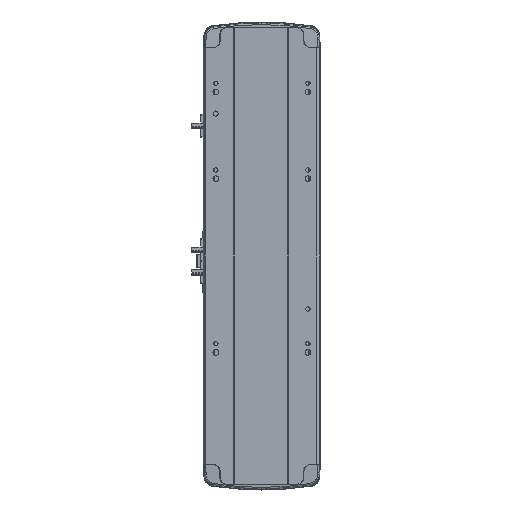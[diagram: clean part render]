
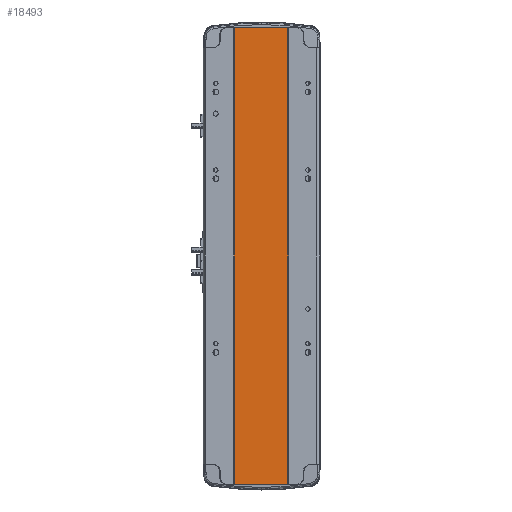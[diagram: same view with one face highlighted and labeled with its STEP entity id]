
A CAD part, front view. The second image highlights one B-rep face of the part: STEP entity #18493.
In plain terms, the highlighted planar face has unit normal (0, -1, 0).
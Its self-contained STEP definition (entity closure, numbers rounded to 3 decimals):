
#456 = CARTESIAN_POINT ( 'NONE',  ( -32., 1., 526. ) ) ;
#971 = AXIS2_PLACEMENT_3D ( 'NONE', #14741, #39349, #42923 ) ;
#1300 = DIRECTION ( 'NONE',  ( 0., 0., -1. ) ) ;
#2369 = LINE ( 'NONE', #11649, #34326 ) ;
#3056 = CARTESIAN_POINT ( 'NONE',  ( 30., 1., 526. ) ) ;
#4860 = EDGE_CURVE ( 'NONE', #43324, #25761, #2369, .T. ) ;
#5109 = ORIENTED_EDGE ( 'NONE', *, *, #6767, .F. ) ;
#6258 = EDGE_LOOP ( 'NONE', ( #31422, #10294, #5109, #16154 ) ) ;
#6767 = EDGE_CURVE ( 'NONE', #43324, #24147, #25619, .T. ) ;
#6840 = VECTOR ( 'NONE', #20480, 1000. ) ;
#8172 = LINE ( 'NONE', #32432, #12572 ) ;
#10294 = ORIENTED_EDGE ( 'NONE', *, *, #31940, .F. ) ;
#11649 = CARTESIAN_POINT ( 'NONE',  ( -32., 1., 526. ) ) ;
#12572 = VECTOR ( 'NONE', #1300, 1000. ) ;
#14741 = CARTESIAN_POINT ( 'NONE',  ( -32., 1., 526. ) ) ;
#16154 = ORIENTED_EDGE ( 'NONE', *, *, #4860, .T. ) ;
#18493 = ADVANCED_FACE ( 'NONE', ( #22024 ), #35836, .F. ) ;
#20206 = CARTESIAN_POINT ( 'NONE',  ( 30., 1., 0. ) ) ;
#20480 = DIRECTION ( 'NONE',  ( 1., 0., 0. ) ) ;
#21922 = CARTESIAN_POINT ( 'NONE',  ( -32., 1., 0. ) ) ;
#22024 = FACE_OUTER_BOUND ( 'NONE', #6258, .T. ) ;
#24147 = VERTEX_POINT ( 'NONE', #3056 ) ;
#24555 = CARTESIAN_POINT ( 'NONE',  ( -32., 1., 0. ) ) ;
#25018 = VERTEX_POINT ( 'NONE', #20206 ) ;
#25216 = LINE ( 'NONE', #24555, #40061 ) ;
#25619 = LINE ( 'NONE', #456, #6840 ) ;
#25761 = VERTEX_POINT ( 'NONE', #21922 ) ;
#31422 = ORIENTED_EDGE ( 'NONE', *, *, #38980, .T. ) ;
#31940 = EDGE_CURVE ( 'NONE', #24147, #25018, #8172, .T. ) ;
#32432 = CARTESIAN_POINT ( 'NONE',  ( 30., 1., 526. ) ) ;
#32703 = DIRECTION ( 'NONE',  ( 1., 0., 0. ) ) ;
#34326 = VECTOR ( 'NONE', #43357, 1000. ) ;
#35836 = PLANE ( 'NONE',  #971 ) ;
#38980 = EDGE_CURVE ( 'NONE', #25761, #25018, #25216, .T. ) ;
#39349 = DIRECTION ( 'NONE',  ( 0., 1., 0. ) ) ;
#40061 = VECTOR ( 'NONE', #32703, 1000. ) ;
#41521 = CARTESIAN_POINT ( 'NONE',  ( -32., 1., 526. ) ) ;
#42923 = DIRECTION ( 'NONE',  ( -1., 0., 0. ) ) ;
#43324 = VERTEX_POINT ( 'NONE', #41521 ) ;
#43357 = DIRECTION ( 'NONE',  ( 0., 0., -1. ) ) ;
